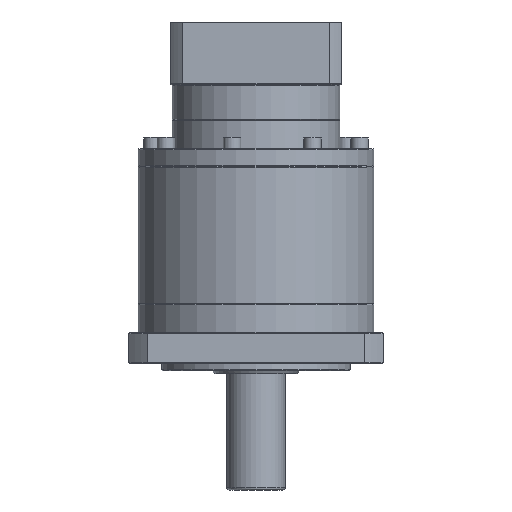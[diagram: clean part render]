
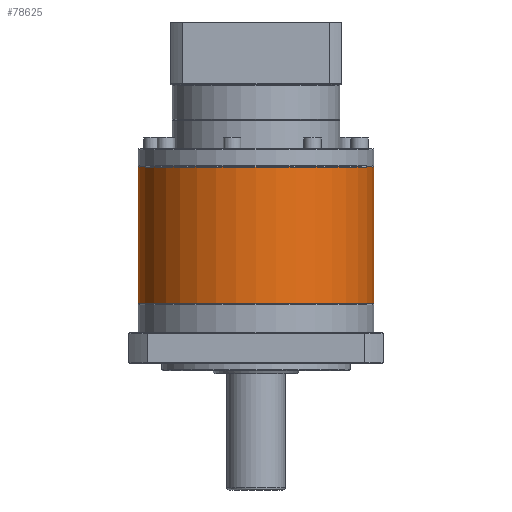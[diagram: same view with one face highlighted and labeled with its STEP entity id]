
A CAD part, front view. The second image highlights one B-rep face of the part: STEP entity #78625.
In plain terms, the highlighted cylindrical face has radius 81 mm (diameter 162 mm), a partial arc.
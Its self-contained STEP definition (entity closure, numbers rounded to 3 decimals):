
#1230 = LINE ( 'NONE', #27562, #11663 ) ;
#1414 = EDGE_CURVE ( 'NONE', #85463, #5405, #89334, .T. ) ;
#3268 = DIRECTION ( 'NONE',  ( 0., 0., -1. ) ) ;
#5405 = VERTEX_POINT ( 'NONE', #140679 ) ;
#10911 = EDGE_CURVE ( 'NONE', #43161, #5405, #1230, .T. ) ;
#11663 = VECTOR ( 'NONE', #114463, 1000. ) ;
#23745 = DIRECTION ( 'NONE',  ( 0., 0., -1. ) ) ;
#25227 = CARTESIAN_POINT ( 'NONE',  ( -51.469, 99.836, -84.02 ) ) ;
#27562 = CARTESIAN_POINT ( 'NONE',  ( -51.469, 99.836, -83.52 ) ) ;
#30147 = CARTESIAN_POINT ( 'NONE',  ( -132.469, 99.836, -83.52 ) ) ;
#40924 = CYLINDRICAL_SURFACE ( 'NONE', #136416, 81. ) ;
#43022 = VERTEX_POINT ( 'NONE', #129926 ) ;
#43161 = VERTEX_POINT ( 'NONE', #25227 ) ;
#43752 = EDGE_LOOP ( 'NONE', ( #52951, #87965, #117032, #69167 ) ) ;
#52951 = ORIENTED_EDGE ( 'NONE', *, *, #10911, .F. ) ;
#53511 = CARTESIAN_POINT ( 'NONE',  ( -213.469, 99.836, -83.52 ) ) ;
#69167 = ORIENTED_EDGE ( 'NONE', *, *, #1414, .T. ) ;
#78625 = ADVANCED_FACE ( 'NONE', ( #90676 ), #40924, .T. ) ;
#81358 = LINE ( 'NONE', #53511, #84847 ) ;
#84847 = VECTOR ( 'NONE', #23745, 1000. ) ;
#85463 = VERTEX_POINT ( 'NONE', #111623 ) ;
#87965 = ORIENTED_EDGE ( 'NONE', *, *, #96456, .T. ) ;
#89334 = CIRCLE ( 'NONE', #134261, 81. ) ;
#89835 = AXIS2_PLACEMENT_3D ( 'NONE', #100972, #3268, #111975 ) ;
#90551 = EDGE_CURVE ( 'NONE', #43022, #85463, #81358, .T. ) ;
#90676 = FACE_OUTER_BOUND ( 'NONE', #43752, .T. ) ;
#91486 = CARTESIAN_POINT ( 'NONE',  ( -132.469, 99.836, -177.52 ) ) ;
#94932 = DIRECTION ( 'NONE',  ( 0., 0., -1. ) ) ;
#95898 = DIRECTION ( 'NONE',  ( -1., 0., 0. ) ) ;
#96456 = EDGE_CURVE ( 'NONE', #43161, #43022, #131877, .T. ) ;
#100972 = CARTESIAN_POINT ( 'NONE',  ( -132.469, 99.836, -84.02 ) ) ;
#101638 = DIRECTION ( 'NONE',  ( 0., 0., 1. ) ) ;
#111623 = CARTESIAN_POINT ( 'NONE',  ( -213.469, 99.836, -177.52 ) ) ;
#111975 = DIRECTION ( 'NONE',  ( -1., 0., 0. ) ) ;
#113571 = DIRECTION ( 'NONE',  ( -1., 0., 0. ) ) ;
#114463 = DIRECTION ( 'NONE',  ( 0., 0., -1. ) ) ;
#117032 = ORIENTED_EDGE ( 'NONE', *, *, #90551, .T. ) ;
#129926 = CARTESIAN_POINT ( 'NONE',  ( -213.469, 99.836, -84.02 ) ) ;
#131877 = CIRCLE ( 'NONE', #89835, 81. ) ;
#134261 = AXIS2_PLACEMENT_3D ( 'NONE', #91486, #101638, #113571 ) ;
#136416 = AXIS2_PLACEMENT_3D ( 'NONE', #30147, #94932, #95898 ) ;
#140679 = CARTESIAN_POINT ( 'NONE',  ( -51.469, 99.836, -177.52 ) ) ;
